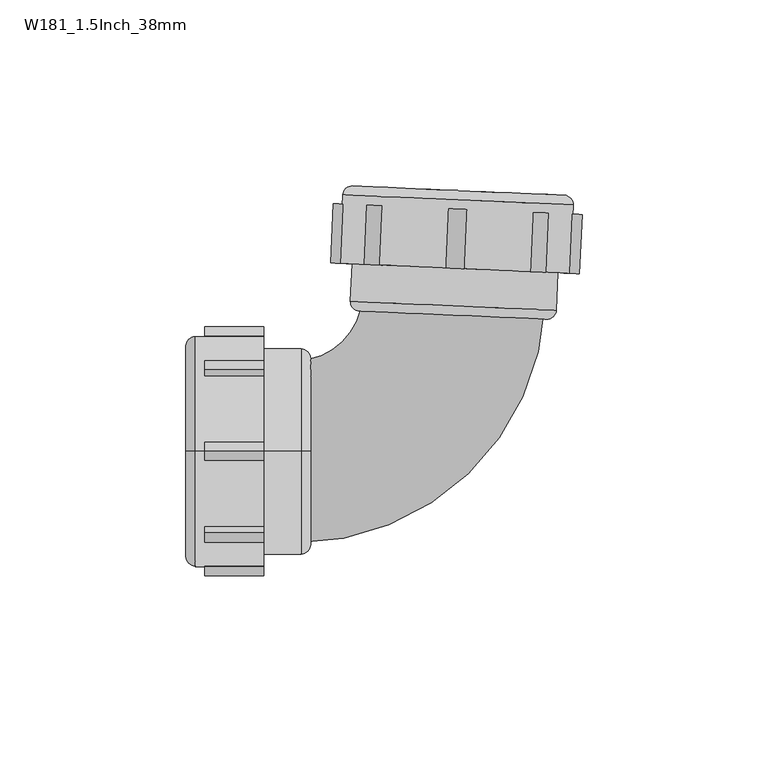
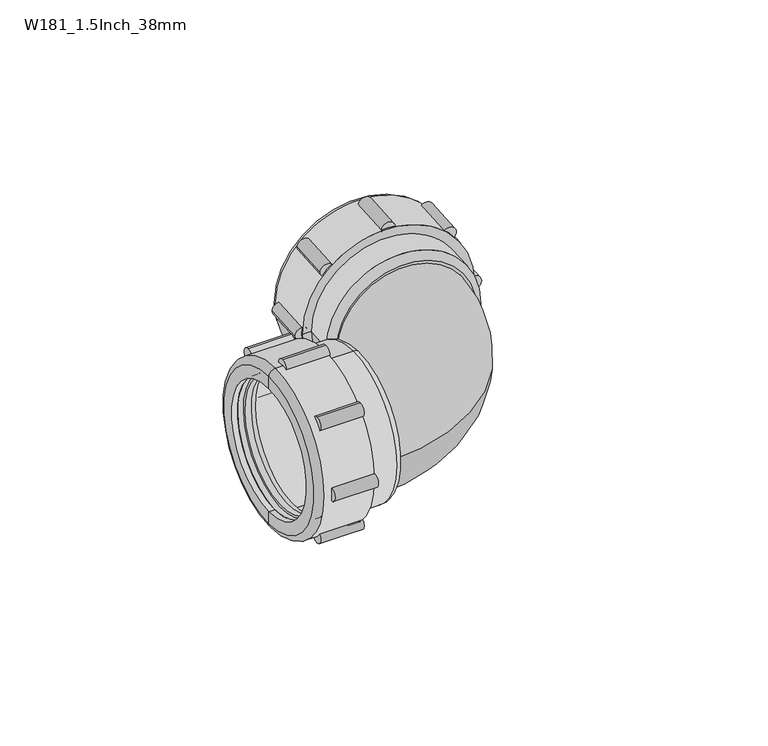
"""IFC4 building model written with IfcOpenShell, lengths in millimetres: pipe fitting geometry, Durapipe_PipeFitting_VulcatheneMechanical_92.5SweepBend_W18 : W181_1.5Inch_38mm."""

from ifc_helpers import new_model, si_unit, point, frame, frame_2d, origin, place, context, project, spatial, polyline, circle_curve, ellipse_curve, trimmed, segment, composite_curve, outline, extrude, source, transform, mapped, element, save
from ifc_brep_helpers import plane_surface, cylinder_surface, revolved_surface, advanced_brep


def w181_1_5inch_38mm_bc8677d7(model_context):
    return source(origin(), model_context, "Body", "SolidModel", [
        advanced_brep(
        [(-15.6220999, 68.5401021, 18.5969083), (21.5363166, 66.9177306, -18.5969083), (20.0528056, 66.9825021, -17.1119841), (-14.1385889, 68.4753306, 17.1119841), (-15.5576233, 63.5325236, 18.3140656), (21.0356461, 61.9348269, -18.3140656), (-15.4111222, 62.0246982, 18.1019336), (20.7582869, 60.4455077, -18.1019336), (20.823716, 61.94408, -18.1019336), (-15.3456932, 63.5232705, 18.1019336), (-14.422115, 61.9815172, 17.1119841), (19.7692796, 60.4886887, -17.1119841), (-14.3348762, 63.9796136, 17.1119841), (19.8565184, 62.4867851, -17.1119841), (-13.7697292, 63.9549388, 16.5462987), (19.2913714, 62.51146, -16.5462987), (-14.2345516, 66.2774245, 17.1119841), (19.956843, 64.784596, -17.1119841), (19.391696, 64.8092709, -16.5462987), (-13.6694046, 66.2527497, 16.5462987)],
        [
            (0, 1, circle_curve(frame((2.9571084, 67.7289164, 0.0), z_axis=(0.043619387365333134, 0.9990482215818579, 0.0), x_axis=(0.7064337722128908, -0.030843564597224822, -0.7071067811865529)), 26.3)),
            (1, 2),
            (2, 3, circle_curve(frame((2.9571084, 67.7289164, 0.0), z_axis=(-0.043619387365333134, -0.9990482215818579, 0.0), x_axis=(0.7064337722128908, -0.030843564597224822, -0.7071067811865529)), 24.2)),
            (3, 0),
            (1, 0, circle_curve(frame((2.9571084, 67.7289164, 0.0), z_axis=(0.043619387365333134, 0.9990482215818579, 0.0), x_axis=(0.7064337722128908, -0.030843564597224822, -0.7071067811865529)), 26.3)),
            (3, 2, circle_curve(frame((2.9571084, 67.7289164, 0.0), z_axis=(-0.043619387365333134, -0.9990482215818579, 0.0), x_axis=(0.7064337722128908, -0.030843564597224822, -0.7071067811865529)), 24.2)),
            (4, 5, circle_curve(frame((2.7390114, 62.7336753, 0.0), z_axis=(0.043619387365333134, 0.9990482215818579, 0.0), x_axis=(0.7064337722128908, -0.030843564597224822, -0.7071067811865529)), 25.9)),
            (5, 1),
            (0, 4),
            (5, 4, circle_curve(frame((2.7390114, 62.7336753, 0.0), z_axis=(0.043619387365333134, 0.9990482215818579, 0.0), x_axis=(0.7064337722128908, -0.030843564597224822, -0.7071067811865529)), 25.9)),
            (6, 7, circle_curve(frame((2.6735823, 61.2351029, 0.0), z_axis=(0.043619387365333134, 0.9990482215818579, 0.0), x_axis=(0.7064337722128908, -0.030843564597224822, -0.7071067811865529)), 25.6)),
            (7, 8),
            (8, 9, circle_curve(frame((2.7390114, 62.7336753, 0.0), z_axis=(-0.043619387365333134, -0.9990482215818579, 0.0), x_axis=(0.7064337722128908, -0.030843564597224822, -0.7071067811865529)), 25.6)),
            (9, 6),
            (7, 6, circle_curve(frame((2.6735823, 61.2351029, 0.0), z_axis=(0.043619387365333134, 0.9990482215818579, 0.0), x_axis=(0.7064337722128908, -0.030843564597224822, -0.7071067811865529)), 25.6)),
            (9, 8, circle_curve(frame((2.7390114, 62.7336753, 0.0), z_axis=(-0.043619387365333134, -0.9990482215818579, 0.0), x_axis=(0.7064337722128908, -0.030843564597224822, -0.7071067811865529)), 25.6)),
            (6, 10),
            (10, 11, circle_curve(frame((2.6735823, 61.2351029, 0.0), z_axis=(0.043619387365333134, 0.9990482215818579, 0.0), x_axis=(0.7064337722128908, -0.030843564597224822, -0.7071067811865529)), 24.2)),
            (11, 7),
            (11, 10, circle_curve(frame((2.6735823, 61.2351029, 0.0), z_axis=(0.043619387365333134, 0.9990482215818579, 0.0), x_axis=(0.7064337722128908, -0.030843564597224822, -0.7071067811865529)), 24.2)),
            (10, 12),
            (12, 13, circle_curve(frame((2.7608211, 63.2331994, 0.0), z_axis=(0.043619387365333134, 0.9990482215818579, 0.0), x_axis=(0.7064337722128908, -0.030843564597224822, -0.7071067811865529)), 24.2)),
            (13, 11),
            (13, 12, circle_curve(frame((2.7608211, 63.2331994, 0.0), z_axis=(0.043619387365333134, 0.9990482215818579, 0.0), x_axis=(0.7064337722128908, -0.030843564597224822, -0.7071067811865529)), 24.2)),
            (12, 14),
            (14, 15, circle_curve(frame((2.7608211, 63.2331994, 0.0), z_axis=(0.043619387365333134, 0.9990482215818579, 0.0), x_axis=(0.7064337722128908, -0.030843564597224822, -0.7071067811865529)), 23.4)),
            (15, 13),
            (15, 14, circle_curve(frame((2.7608211, 63.2331994, 0.0), z_axis=(0.043619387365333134, 0.9990482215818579, 0.0), x_axis=(0.7064337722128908, -0.030843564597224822, -0.7071067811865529)), 23.4)),
            (16, 17, circle_curve(frame((2.8611457, 65.5310103, 0.0), z_axis=(0.043619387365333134, 0.9990482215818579, 0.0), x_axis=(0.7064337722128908, -0.030843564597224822, -0.7071067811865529)), 24.2)),
            (17, 18),
            (18, 19, circle_curve(frame((2.8611457, 65.5310103, 0.0), z_axis=(-0.043619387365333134, -0.9990482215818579, 0.0), x_axis=(0.7064337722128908, -0.030843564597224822, -0.7071067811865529)), 23.4)),
            (19, 16),
            (17, 16, circle_curve(frame((2.8611457, 65.5310103, 0.0), z_axis=(0.043619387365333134, 0.9990482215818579, 0.0), x_axis=(0.7064337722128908, -0.030843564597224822, -0.7071067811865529)), 24.2)),
            (19, 18, circle_curve(frame((2.8611457, 65.5310103, 0.0), z_axis=(-0.043619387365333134, -0.9990482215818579, 0.0), x_axis=(0.7064337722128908, -0.030843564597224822, -0.7071067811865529)), 23.4)),
            (2, 17),
            (16, 3),
            (14, 19),
            (18, 15),
            (4, 9),
            (8, 5),
        ],
        [
            plane_surface(frame((2.9571084, 67.7289164, 0.0), z_axis=(0.043619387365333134, 0.9990482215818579, 0.0), x_axis=(0.7064337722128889, -0.03084356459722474, -0.707106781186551))),
            revolved_surface(polyline([(21.5363166, 66.9177306, -18.5969083), (21.0356461, 61.9348269, -18.3140656)]), (3.1752053, 72.7241575, 0.0), (-0.04361938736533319, -0.9990482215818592, 0.0)),
            cylinder_surface(frame((2.5832616, 59.166418, 0.0), z_axis=(-0.04361938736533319, -0.9990482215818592, 0.0), x_axis=(0.7064337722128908, -0.030843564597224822, -0.7071067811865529)), 25.6),
            plane_surface(frame((2.6735823, 61.2351029, 0.0), z_axis=(-0.043619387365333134, -0.9990482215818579, 0.0), x_axis=(0.7064337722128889, -0.03084356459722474, -0.707106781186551))),
            revolved_surface(polyline([(19.76927961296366, 60.48868863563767, -17.11198410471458), (19.85651839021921, 62.486785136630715, -17.11198410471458)]), (2.5212202, 57.7454365, 0.0), (-0.04361938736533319, -0.9990482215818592, 0.0)),
            plane_surface(frame((2.7608211, 63.2331994, 0.0), z_axis=(-0.043619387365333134, -0.9990482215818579, 0.0), x_axis=(0.7064337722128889, -0.03084356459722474, -0.707106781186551))),
            plane_surface(frame((2.8611457, 65.5310103, 0.0), z_axis=(0.043619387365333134, 0.9990482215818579, 0.0), x_axis=(0.7064337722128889, -0.03084356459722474, -0.707106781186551))),
            revolved_surface(polyline([(19.956842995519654, 64.7845959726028, -17.11198410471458), (20.05280565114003, 66.98250213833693, -17.11198410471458)]), (3.1752053, 72.7241575, 0.0), (-0.04361938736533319, -0.9990482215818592, 0.0)),
            revolved_surface(polyline([(19.29137137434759, 62.511459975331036, -16.546298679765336), (19.39169596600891, 64.8092709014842, -16.546298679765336)]), (3.0254247, 69.2936181, 0.0), (-0.04361938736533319, -0.9990482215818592, 0.0)),
            plane_surface(frame((2.7390114, 62.7336753, 0.0), z_axis=(-0.043619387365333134, -0.9990482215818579, 0.0), x_axis=(0.7064337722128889, -0.03084356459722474, -0.707106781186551))),
        ],
        [
            (0, [[1, 2, 3, 4]]),
            (0, [[-2, 5, -4, 6]]),
            (1, [[7, 8, -1, 9]]),
            (1, [[10, -9, -5, -8]]),
            (2, [[11, 12, 13, 14]]),
            (2, [[-12, 15, -14, 16]]),
            (3, [[-11, 17, 18, 19]]),
            (3, [[-15, -19, 20, -17]]),
            (4, [[21, 22, 23, -18]]),
            (4, [[-21, -20, -23, 24]]),
            (5, [[-22, 25, 26, 27]]),
            (5, [[-24, -27, 28, -25]]),
            (6, [[29, 30, 31, 32]]),
            (6, [[33, -32, 34, -30]]),
            (7, [[-3, 35, -29, 36]]),
            (7, [[-6, -36, -33, -35]]),
            (8, [[37, -31, 38, -26]]),
            (8, [[-37, -28, -38, -34]]),
            (9, [[-7, 39, -13, 40]]),
            (9, [[-10, -40, -16, -39]]),
        ],
    ),
        advanced_brep(
        [(-28.8203452, 50.5987253, 0.0), (33.1206446, 47.8943233, 0.0), (33.9232413, 66.2768105, 0.0), (-28.0177485, 68.9812125, 0.0), (-25.5234861, 50.4547813, 0.0), (29.8237854, 48.0382672, 0.0), (-25.4110794, 71.3697846, 0.0), (31.5346692, 68.8834796, 0.0), (27.0389522, 69.0797668, 0.0), (-20.9153624, 71.1734974, 0.0), (-23.0181454, 68.8630204, 0.0), (28.9323621, 66.5948123, 0.0), (27.7415528, 39.3207958, 0.0), (-24.2089547, 41.589004, 0.0), (-21.020049, 68.7757817, 0.0), (26.9342657, 66.6820511, 0.0), (-25.9640419, 40.3643943, 0.0), (29.3832296, 37.9478802, 0.0), (-23.5754698, 37.7577252, 0.0), (26.7765606, 35.5593081, 0.0), (1.6005454, 36.6585167, 0.0), (1.7662991, 40.4548999, 0.0)],
        [
            (0, 1, circle_curve(frame((2.1501497, 49.2465243, 0.0), z_axis=(0.0436193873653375, 0.9990482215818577, 0.0), x_axis=(0.9990482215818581, -0.04361938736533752, 0.0)), 31.0)),
            (1, 2),
            (2, 3, circle_curve(frame((2.9527464, 67.6290115, 0.0), z_axis=(-0.0436193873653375, -0.9990482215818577, 0.0), x_axis=(0.9990482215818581, -0.04361938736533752, 0.0)), 31.0)),
            (3, 0),
            (1, 0, circle_curve(frame((2.1501497, 49.2465243, 0.0), z_axis=(0.0436193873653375, 0.9990482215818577, 0.0), x_axis=(0.9990482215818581, -0.04361938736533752, 0.0)), 31.0)),
            (3, 2, circle_curve(frame((2.9527464, 67.6290115, 0.0), z_axis=(-0.0436193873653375, -0.9990482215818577, 0.0), x_axis=(0.9990482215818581, -0.04361938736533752, 0.0)), 31.0)),
            (4, 5, circle_curve(frame((2.1501497, 49.2465243, 0.0), z_axis=(0.0436193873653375, 0.9990482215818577, 0.0), x_axis=(0.9990482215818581, -0.04361938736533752, 0.0)), 27.7)),
            (5, 1),
            (0, 4),
            (5, 4, circle_curve(frame((2.1501497, 49.2465243, 0.0), z_axis=(0.0436193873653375, 0.9990482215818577, 0.0), x_axis=(0.9990482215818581, -0.04361938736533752, 0.0)), 27.7)),
            (6, 7, circle_curve(frame((3.0617949, 70.1266321, 0.0), z_axis=(0.0436193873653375, 0.9990482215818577, 0.0), x_axis=(0.9990482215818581, -0.04361938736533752, 0.0)), 28.5)),
            (7, 8),
            (8, 9, circle_curve(frame((3.0617949, 70.1266321, 0.0), z_axis=(-0.0436193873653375, -0.9990482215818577, 0.0), x_axis=(0.9990482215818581, -0.04361938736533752, 0.0)), 24.0)),
            (9, 6),
            (7, 6, circle_curve(frame((3.0617949, 70.1266321, 0.0), z_axis=(0.0436193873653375, 0.9990482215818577, 0.0), x_axis=(0.9990482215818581, -0.04361938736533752, 0.0)), 28.5)),
            (9, 8, circle_curve(frame((3.0617949, 70.1266321, 0.0), z_axis=(-0.0436193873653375, -0.9990482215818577, 0.0), x_axis=(0.9990482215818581, -0.04361938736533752, 0.0)), 24.0)),
            (2, 7, circle_curve(frame((31.4256207, 66.385859, 0.0), z_axis=(0.0, 0.0, 1.0000000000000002), x_axis=(0.043619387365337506, 0.9990482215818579, 0.0)), 2.5)),
            (6, 3, circle_curve(frame((-25.5201279, 68.8721641, 0.0), z_axis=(0.0, 0.0, 1.0000000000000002), x_axis=(0.043619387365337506, 0.9990482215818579, 0.0)), 2.5)),
            (10, 11, circle_curve(frame((2.9571084, 67.7289164, 0.0), z_axis=(0.0436193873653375, 0.9990482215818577, 0.0), x_axis=(0.9990482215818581, -0.04361938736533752, 0.0)), 26.0)),
            (11, 12),
            (12, 13, circle_curve(frame((1.7662991, 40.4548999, 0.0), z_axis=(-0.0436193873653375, -0.9990482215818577, 0.0), x_axis=(0.9990482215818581, -0.04361938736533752, 0.0)), 26.0)),
            (13, 10),
            (11, 10, circle_curve(frame((2.9571084, 67.7289164, 0.0), z_axis=(0.0436193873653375, 0.9990482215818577, 0.0), x_axis=(0.9990482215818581, -0.04361938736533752, 0.0)), 26.0)),
            (13, 12, circle_curve(frame((1.7662991, 40.4548999, 0.0), z_axis=(-0.0436193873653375, -0.9990482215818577, 0.0), x_axis=(0.9990482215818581, -0.04361938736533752, 0.0)), 26.0)),
            (14, 15, circle_curve(frame((2.9571084, 67.7289164, 0.0), z_axis=(0.0436193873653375, 0.9990482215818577, 0.0), x_axis=(0.9990482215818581, -0.04361938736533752, 0.0)), 24.0)),
            (15, 11),
            (10, 14),
            (15, 14, circle_curve(frame((2.9571084, 67.7289164, 0.0), z_axis=(0.0436193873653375, 0.9990482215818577, 0.0), x_axis=(0.9990482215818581, -0.04361938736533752, 0.0)), 24.0)),
            (8, 15),
            (14, 9),
            (16, 17, circle_curve(frame((1.7095939, 39.1561372, 0.0), z_axis=(0.0436193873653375, 0.9990482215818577, 0.0), x_axis=(0.9990482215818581, -0.04361938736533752, 0.0)), 27.7)),
            (17, 5),
            (4, 16),
            (17, 16, circle_curve(frame((1.7095939, 39.1561372, 0.0), z_axis=(0.0436193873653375, 0.9990482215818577, 0.0), x_axis=(0.9990482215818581, -0.04361938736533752, 0.0)), 27.7)),
            (18, 19, circle_curve(frame((1.6005454, 36.6585167, 0.0), z_axis=(0.0436193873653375, 0.9990482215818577, 0.0), x_axis=(0.9990482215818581, -0.04361938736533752, 0.0)), 25.2)),
            (19, 17, circle_curve(frame((26.8856091, 38.0569287, 0.0), z_axis=(0.0, 0.0, 1.0000000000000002), x_axis=(0.043619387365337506, 0.9990482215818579, 0.0)), 2.5)),
            (16, 18, circle_curve(frame((-23.4664213, 40.2553458, 0.0), z_axis=(0.0, 0.0, 1.0000000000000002), x_axis=(0.043619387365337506, 0.9990482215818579, 0.0)), 2.5)),
            (19, 18, circle_curve(frame((1.6005454, 36.6585167, 0.0), z_axis=(0.0436193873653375, 0.9990482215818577, 0.0), x_axis=(0.9990482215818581, -0.04361938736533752, 0.0)), 25.2)),
            (20, 19),
            (18, 20),
            (12, 21),
            (21, 13),
        ],
        [
            cylinder_surface(frame((71.143014, 1629.442913, 0.0), z_axis=(-0.043619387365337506, -0.9990482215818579, 0.0), x_axis=(0.9990482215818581, -0.04361938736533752, 0.0)), 31.0),
            plane_surface(frame((2.1501497, 49.2465243, 0.0), z_axis=(-0.0436193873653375, -0.9990482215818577, 0.0), x_axis=(0.9990482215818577, -0.0436193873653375, 0.0))),
            plane_surface(frame((3.0617949, 70.1266321, 0.0), z_axis=(0.0436193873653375, 0.9990482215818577, 0.0), x_axis=(0.9990482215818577, -0.0436193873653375, 0.0))),
            revolved_surface(trimmed(ellipse_curve(frame((31.4256207, 66.385859, 0.0), z_axis=(0.0, 0.0, -1.0000000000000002), x_axis=(0.043619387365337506, 0.9990482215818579, 0.0)), 2.5, 2.5), [point((31.5346692, 68.8834796, 0.0))], [point((33.9232413, 66.2768105, 0.0))], True, "CARTESIAN"), (71.143014, 1629.442913, 0.0), (-0.043619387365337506, -0.9990482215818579, 0.0)),
            revolved_surface(polyline([(27.741552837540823, 39.32079579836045, 0.0), (28.932362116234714, 66.59481233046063, 0.0)]), (71.143014, 1629.442913, 0.0), (-0.043619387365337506, -0.9990482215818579, 0.0)),
            plane_surface(frame((2.9571084, 67.7289164, 0.0), z_axis=(-0.0436193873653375, -0.9990482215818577, 0.0), x_axis=(0.9990482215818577, -0.0436193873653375, 0.0))),
            revolved_surface(polyline([(26.934265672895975, 66.68205110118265, 0.0), (27.03895220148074, 69.07976680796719, 0.0)]), (71.143014, 1629.442913, 0.0), (-0.043619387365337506, -0.9990482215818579, 0.0)),
            cylinder_surface(frame((71.143014, 1629.442913, 0.0), z_axis=(-0.043619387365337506, -0.9990482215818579, 0.0), x_axis=(0.9990482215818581, -0.04361938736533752, 0.0)), 27.7),
            revolved_surface(trimmed(ellipse_curve(frame((26.8856091, 38.0569287, 0.0), z_axis=(0.0, 0.0, -1.0000000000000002), x_axis=(0.043619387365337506, 0.9990482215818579, 0.0)), 2.5, 2.5), [point((29.3832296, 37.9478802, 0.0))], [point((26.7765606, 35.5593081, 0.0))], True, "CARTESIAN"), (71.143014, 1629.442913, 0.0), (-0.043619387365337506, -0.9990482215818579, 0.0)),
            plane_surface(frame((1.6005454, 36.6585167, 0.0), z_axis=(-0.0436193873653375, -0.9990482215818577, 0.0), x_axis=(0.9990482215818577, -0.0436193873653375, 0.0))),
            plane_surface(frame((1.7662991, 40.4548999, 0.0), z_axis=(0.0436193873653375, 0.9990482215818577, 0.0), x_axis=(0.9990482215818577, -0.0436193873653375, 0.0))),
        ],
        [
            (0, [[1, 2, 3, 4]]),
            (0, [[5, -4, 6, -2]]),
            (1, [[7, 8, -1, 9]]),
            (1, [[10, -9, -5, -8]]),
            (2, [[11, 12, 13, 14]]),
            (2, [[15, -14, 16, -12]]),
            (3, [[-3, 17, -11, 18]]),
            (3, [[-6, -18, -15, -17]]),
            (4, [[19, 20, 21, 22]]),
            (4, [[23, -22, 24, -20]]),
            (5, [[25, 26, -19, 27]]),
            (5, [[28, -27, -23, -26]]),
            (6, [[-13, 29, -25, 30]]),
            (6, [[-16, -30, -28, -29]]),
            (7, [[31, 32, -7, 33]]),
            (7, [[34, -33, -10, -32]]),
            (8, [[35, 36, -31, 37]]),
            (8, [[38, -37, -34, -36]]),
            (9, [[39, -35, 40]]),
            (9, [[-40, -38, -39]]),
            (10, [[-21, 41, 42]]),
            (10, [[-24, -42, -41]]),
        ],
    ),
        extrude(outline(composite_curve([segment(trimmed(circle_curve(frame_2d((0.0, -2.4999999)), 2.5), [point((0.0, -5.0))], [point((0.0, 0.0))], False, "CARTESIAN"), True, "CONTINUOUS"), segment(trimmed(circle_curve(frame_2d((0.0, -2.4999999)), 2.5), [point((0.0, 0.0))], [point((0.0, -5.0))], False, "CARTESIAN"), True, "CONTINUOUS")], self_intersect=False)), frame((4.6477702, 49.1374758, -31.0), z_axis=(0.0436193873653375, 0.9990482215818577, 0.0), x_axis=(0.0, 0.0, 1.0)), (0.0, 0.0, 1.0), 15.9),
        extrude(outline(composite_curve([segment(trimmed(circle_curve(frame_2d((9.0796898, 19.4203102)), 2.5), [point((9.0796898, 16.9203103))], [point((9.0796898, 21.9203103))], False, "CARTESIAN"), True, "CONTINUOUS"), segment(trimmed(circle_curve(frame_2d((9.0796898, 19.4203102)), 2.5), [point((9.0796898, 21.9203103))], [point((9.0796898, 16.9203103))], False, "CARTESIAN"), True, "CONTINUOUS")], self_intersect=False)), frame((4.6477702, 49.1374758, -31.0), z_axis=(0.0436193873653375, 0.9990482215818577, 0.0), x_axis=(0.0, 0.0, 1.0)), (0.0, 0.0, 1.0), 15.9),
        extrude(outline(composite_curve([segment(trimmed(circle_curve(frame_2d((31.0, 28.5000001)), 2.5), [point((31.0, 26.0))], [point((31.0, 31.0))], False, "CARTESIAN"), True, "CONTINUOUS"), segment(trimmed(circle_curve(frame_2d((31.0, 28.5000001)), 2.5), [point((31.0, 31.0))], [point((31.0, 26.0))], False, "CARTESIAN"), True, "CONTINUOUS")], self_intersect=False)), frame((4.6477702, 49.1374758, -31.0), z_axis=(0.0436193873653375, 0.9990482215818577, 0.0), x_axis=(0.0, 0.0, 1.0)), (0.0, 0.0, 1.0), 15.9),
        extrude(outline(composite_curve([segment(trimmed(circle_curve(frame_2d((52.9203102, 19.4203102)), 2.5), [point((52.9203102, 16.9203103))], [point((52.9203102, 21.9203103))], False, "CARTESIAN"), True, "CONTINUOUS"), segment(trimmed(circle_curve(frame_2d((52.9203102, 19.4203102)), 2.5), [point((52.9203102, 21.9203103))], [point((52.9203102, 16.9203103))], False, "CARTESIAN"), True, "CONTINUOUS")], self_intersect=False)), frame((4.6477702, 49.1374758, -31.0), z_axis=(0.0436193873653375, 0.9990482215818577, 0.0), x_axis=(0.0, 0.0, 1.0)), (0.0, 0.0, 1.0), 15.9),
        extrude(outline(composite_curve([segment(trimmed(circle_curve(frame_2d((62.0, -2.4999999)), 2.5), [point((62.0, -5.0))], [point((62.0, 0.0))], False, "CARTESIAN"), True, "CONTINUOUS"), segment(trimmed(circle_curve(frame_2d((62.0, -2.4999999)), 2.5), [point((62.0, 0.0))], [point((62.0, -5.0))], False, "CARTESIAN"), True, "CONTINUOUS")], self_intersect=False)), frame((4.6477702, 49.1374758, -31.0), z_axis=(0.0436193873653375, 0.9990482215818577, 0.0), x_axis=(0.0, 0.0, 1.0)), (0.0, 0.0, 1.0), 15.9),
        extrude(outline(composite_curve([segment(trimmed(circle_curve(frame_2d((52.9203102, -24.4203102)), 2.5), [point((52.9203102, -26.9203102))], [point((52.9203102, -21.9203102))], False, "CARTESIAN"), True, "CONTINUOUS"), segment(trimmed(circle_curve(frame_2d((52.9203102, -24.4203102)), 2.5), [point((52.9203102, -21.9203102))], [point((52.9203102, -26.9203102))], False, "CARTESIAN"), True, "CONTINUOUS")], self_intersect=False)), frame((4.6477702, 49.1374758, -31.0), z_axis=(0.0436193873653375, 0.9990482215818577, 0.0), x_axis=(0.0, 0.0, 1.0)), (0.0, 0.0, 1.0), 15.9),
        extrude(outline(composite_curve([segment(trimmed(circle_curve(frame_2d((31.0, -33.5)), 2.5), [point((31.0, -35.9999999))], [point((31.0, -30.9999999))], False, "CARTESIAN"), True, "CONTINUOUS"), segment(trimmed(circle_curve(frame_2d((31.0, -33.5)), 2.5), [point((31.0, -30.9999999))], [point((31.0, -35.9999999))], False, "CARTESIAN"), True, "CONTINUOUS")], self_intersect=False)), frame((4.6477702, 49.1374758, -31.0), z_axis=(0.0436193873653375, 0.9990482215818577, 0.0), x_axis=(0.0, 0.0, 1.0)), (0.0, 0.0, 1.0), 15.9),
        extrude(outline(composite_curve([segment(trimmed(circle_curve(frame_2d((9.0796898, -24.4203102)), 2.5), [point((9.0796898, -26.9203102))], [point((9.0796898, -21.9203102))], False, "CARTESIAN"), True, "CONTINUOUS"), segment(trimmed(circle_curve(frame_2d((9.0796898, -24.4203102)), 2.5), [point((9.0796898, -21.9203102))], [point((9.0796898, -26.9203102))], False, "CARTESIAN"), True, "CONTINUOUS")], self_intersect=False)), frame((4.6477702, 49.1374758, -31.0), z_axis=(0.0436193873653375, 0.9990482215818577, 0.0), x_axis=(0.0, 0.0, 1.0)), (0.0, 0.0, 1.0), 15.9),
        advanced_brep(
        [(-67.7934407, -18.5969083, -18.5969083), (-67.7934407, 18.5969083, 18.5969083), (-67.7934407, 17.1119841, 17.1119841), (-67.7934407, -17.1119841, -17.1119841), (-62.7934407, -18.3140656, -18.3140656), (-62.7934407, 18.3140656, 18.3140656), (-61.2934407, -18.1019336, -18.1019336), (-61.2934407, 18.1019336, 18.1019336), (-62.7934407, 18.1019336, 18.1019336), (-62.7934407, -18.1019336, -18.1019336), (-61.2934407, -17.1119841, -17.1119841), (-61.2934407, 17.1119841, 17.1119841), (-63.2934407, -17.1119841, -17.1119841), (-63.2934407, 17.1119841, 17.1119841), (-63.2934407, -16.5462987, -16.5462987), (-63.2934407, 16.5462987, 16.5462987), (-65.5934407, -17.1119841, -17.1119841), (-65.5934407, 17.1119841, 17.1119841), (-65.5934407, 16.5462987, 16.5462987), (-65.5934407, -16.5462987, -16.5462987)],
        [
            (0, 1, circle_curve(frame((-67.7934407, 0.0, 0.0), z_axis=(-1.0, 0.0, 0.0), x_axis=(0.0, 0.7071067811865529, 0.7071067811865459)), 26.3)),
            (1, 2),
            (2, 3, circle_curve(frame((-67.7934407, 0.0, 0.0), z_axis=(1.0, 0.0, 0.0), x_axis=(0.0, 0.7071067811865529, 0.7071067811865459)), 24.2)),
            (3, 0),
            (1, 0, circle_curve(frame((-67.7934407, 0.0, 0.0), z_axis=(-1.0, 0.0, 0.0), x_axis=(0.0, 0.7071067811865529, 0.7071067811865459)), 26.3)),
            (3, 2, circle_curve(frame((-67.7934407, 0.0, 0.0), z_axis=(1.0, 0.0, 0.0), x_axis=(0.0, 0.7071067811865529, 0.7071067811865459)), 24.2)),
            (4, 5, circle_curve(frame((-62.7934407, 0.0, 0.0), z_axis=(-1.0, 0.0, 0.0), x_axis=(0.0, 0.7071067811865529, 0.7071067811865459)), 25.9)),
            (5, 1),
            (0, 4),
            (5, 4, circle_curve(frame((-62.7934407, 0.0, 0.0), z_axis=(-1.0, 0.0, 0.0), x_axis=(0.0, 0.7071067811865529, 0.7071067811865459)), 25.9)),
            (6, 7, circle_curve(frame((-61.2934407, 0.0, 0.0), z_axis=(-1.0, 0.0, 0.0), x_axis=(0.0, 0.7071067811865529, 0.7071067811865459)), 25.6)),
            (7, 8),
            (8, 9, circle_curve(frame((-62.7934407, 0.0, 0.0), z_axis=(1.0, 0.0, 0.0), x_axis=(0.0, 0.7071067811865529, 0.7071067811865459)), 25.6)),
            (9, 6),
            (7, 6, circle_curve(frame((-61.2934407, 0.0, 0.0), z_axis=(-1.0, 0.0, 0.0), x_axis=(0.0, 0.7071067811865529, 0.7071067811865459)), 25.6)),
            (9, 8, circle_curve(frame((-62.7934407, 0.0, 0.0), z_axis=(1.0, 0.0, 0.0), x_axis=(0.0, 0.7071067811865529, 0.7071067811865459)), 25.6)),
            (6, 10),
            (10, 11, circle_curve(frame((-61.2934407, 0.0, 0.0), z_axis=(-1.0, 0.0, 0.0), x_axis=(0.0, 0.7071067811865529, 0.7071067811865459)), 24.2)),
            (11, 7),
            (11, 10, circle_curve(frame((-61.2934407, 0.0, 0.0), z_axis=(-1.0, 0.0, 0.0), x_axis=(0.0, 0.7071067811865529, 0.7071067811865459)), 24.2)),
            (10, 12),
            (12, 13, circle_curve(frame((-63.2934407, 0.0, 0.0), z_axis=(-1.0, 0.0, 0.0), x_axis=(0.0, 0.7071067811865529, 0.7071067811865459)), 24.2)),
            (13, 11),
            (13, 12, circle_curve(frame((-63.2934407, 0.0, 0.0), z_axis=(-1.0, 0.0, 0.0), x_axis=(0.0, 0.7071067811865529, 0.7071067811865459)), 24.2)),
            (12, 14),
            (14, 15, circle_curve(frame((-63.2934407, 0.0, 0.0), z_axis=(-1.0, 0.0, 0.0), x_axis=(0.0, 0.7071067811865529, 0.7071067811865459)), 23.4)),
            (15, 13),
            (15, 14, circle_curve(frame((-63.2934407, 0.0, 0.0), z_axis=(-1.0, 0.0, 0.0), x_axis=(0.0, 0.7071067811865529, 0.7071067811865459)), 23.4)),
            (16, 17, circle_curve(frame((-65.5934407, 0.0, 0.0), z_axis=(-1.0, 0.0, 0.0), x_axis=(0.0, 0.7071067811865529, 0.7071067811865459)), 24.2)),
            (17, 18),
            (18, 19, circle_curve(frame((-65.5934407, 0.0, 0.0), z_axis=(1.0, 0.0, 0.0), x_axis=(0.0, 0.7071067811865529, 0.7071067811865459)), 23.4)),
            (19, 16),
            (17, 16, circle_curve(frame((-65.5934407, 0.0, 0.0), z_axis=(-1.0, 0.0, 0.0), x_axis=(0.0, 0.7071067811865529, 0.7071067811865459)), 24.2)),
            (19, 18, circle_curve(frame((-65.5934407, 0.0, 0.0), z_axis=(1.0, 0.0, 0.0), x_axis=(0.0, 0.7071067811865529, 0.7071067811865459)), 23.4)),
            (2, 17),
            (16, 3),
            (14, 19),
            (18, 15),
            (4, 9),
            (8, 5),
        ],
        [
            plane_surface(frame((-67.7934407, 0.0, 0.0), z_axis=(-1.0, 0.0, 0.0), x_axis=(0.0, 0.707106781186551, 0.707106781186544))),
            revolved_surface(polyline([(-67.7934407, 18.5969083, 18.5969083), (-62.7934407, 18.3140656, 18.3140656)]), (-72.7934407, 0.0, 0.0), (1.0000000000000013, 0.0, 0.0)),
            cylinder_surface(frame((-59.222785, 0.0, 0.0), z_axis=(1.0000000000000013, 0.0, 0.0), x_axis=(0.0, 0.7071067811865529, 0.7071067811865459)), 25.6),
            plane_surface(frame((-61.2934407, 0.0, 0.0), z_axis=(1.0, 0.0, 0.0), x_axis=(0.0, 0.707106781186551, 0.707106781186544))),
            revolved_surface(polyline([(-61.293440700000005, 17.11198410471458, 17.11198410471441), (-63.29344070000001, 17.11198410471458, 17.11198410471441)]), (-57.8004497, 0.0, 0.0), (1.0000000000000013, 0.0, 0.0)),
            plane_surface(frame((-63.2934407, 0.0, 0.0), z_axis=(1.0, 0.0, 0.0), x_axis=(0.0, 0.707106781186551, 0.707106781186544))),
            plane_surface(frame((-65.5934407, 0.0, 0.0), z_axis=(-1.0, 0.0, 0.0), x_axis=(0.0, 0.707106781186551, 0.707106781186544))),
            revolved_surface(polyline([(-65.59344069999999, 17.11198410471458, 17.11198410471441), (-67.79344069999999, 17.11198410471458, 17.11198410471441)]), (-72.7934407, 0.0, 0.0), (1.0000000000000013, 0.0, 0.0)),
            revolved_surface(polyline([(-63.293440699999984, 16.546298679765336, 16.546298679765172), (-65.59344069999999, 16.546298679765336, 16.546298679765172)]), (-69.3596331, 0.0, 0.0), (1.0000000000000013, 0.0, 0.0)),
            plane_surface(frame((-62.7934407, 0.0, 0.0), z_axis=(1.0, 0.0, 0.0), x_axis=(0.0, 0.707106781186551, 0.707106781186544))),
        ],
        [
            (0, [[1, 2, 3, 4]]),
            (0, [[-2, 5, -4, 6]]),
            (1, [[7, 8, -1, 9]]),
            (1, [[10, -9, -5, -8]]),
            (2, [[11, 12, 13, 14]]),
            (2, [[-12, 15, -14, 16]]),
            (3, [[-11, 17, 18, 19]]),
            (3, [[-15, -19, 20, -17]]),
            (4, [[21, 22, 23, -18]]),
            (4, [[-21, -20, -23, 24]]),
            (5, [[-22, 25, 26, 27]]),
            (5, [[-24, -27, 28, -25]]),
            (6, [[29, 30, 31, 32]]),
            (6, [[33, -32, 34, -30]]),
            (7, [[-3, 35, -29, 36]]),
            (7, [[-6, -36, -33, -35]]),
            (8, [[37, -31, 38, -26]]),
            (8, [[-37, -28, -38, -34]]),
            (9, [[-7, 39, -13, 40]]),
            (9, [[-10, -40, -16, -39]]),
        ],
    ),
        advanced_brep(
        [(-49.2934407, 0.0, -31.0), (-49.2934407, 0.0, 31.0), (-67.6934407, 0.0, 31.0), (-67.6934407, 0.0, -31.0), (-49.2934407, 0.0, -27.7), (-49.2934407, 0.0, 27.7), (-70.1934407, 0.0, -28.5), (-70.1934407, 0.0, 28.5), (-70.1934407, 0.0, 24.0), (-70.1934407, 0.0, -24.0), (-67.7934407, 0.0, -26.0), (-67.7934407, 0.0, 26.0), (-40.4934407, 0.0, 26.0), (-40.4934407, 0.0, -26.0), (-67.7934407, 0.0, -24.0), (-67.7934407, 0.0, 24.0), (-39.1934407, 0.0, -27.7), (-39.1934407, 0.0, 27.7), (-36.6934407, 0.0, -25.2), (-36.6934407, 0.0, 25.2), (-36.6934407, 0.0, 0.0), (-40.4934407, 0.0, 0.0)],
        [
            (0, 1, circle_curve(frame((-49.2934407, 0.0, 0.0), z_axis=(-1.0, 0.0, 0.0), x_axis=(0.0, 0.0, 1.0000000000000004)), 31.0)),
            (1, 2),
            (2, 3, circle_curve(frame((-67.6934407, 0.0, 0.0), z_axis=(1.0, 0.0, 0.0), x_axis=(0.0, 0.0, 1.0000000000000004)), 31.0)),
            (3, 0),
            (1, 0, circle_curve(frame((-49.2934407, 0.0, 0.0), z_axis=(-1.0, 0.0, 0.0), x_axis=(0.0, 0.0, 1.0000000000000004)), 31.0)),
            (3, 2, circle_curve(frame((-67.6934407, 0.0, 0.0), z_axis=(1.0, 0.0, 0.0), x_axis=(0.0, 0.0, 1.0000000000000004)), 31.0)),
            (4, 5, circle_curve(frame((-49.2934407, 0.0, 0.0), z_axis=(-1.0, 0.0, 0.0), x_axis=(0.0, 0.0, 1.0000000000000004)), 27.7)),
            (5, 1),
            (0, 4),
            (5, 4, circle_curve(frame((-49.2934407, 0.0, 0.0), z_axis=(-1.0, 0.0, 0.0), x_axis=(0.0, 0.0, 1.0000000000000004)), 27.7)),
            (6, 7, circle_curve(frame((-70.1934407, 0.0, 0.0), z_axis=(-1.0, 0.0, 0.0), x_axis=(0.0, 0.0, 1.0000000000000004)), 28.5)),
            (7, 8),
            (8, 9, circle_curve(frame((-70.1934407, 0.0, 0.0), z_axis=(1.0, 0.0, 0.0), x_axis=(0.0, 0.0, 1.0000000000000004)), 24.0)),
            (9, 6),
            (7, 6, circle_curve(frame((-70.1934407, 0.0, 0.0), z_axis=(-1.0, 0.0, 0.0), x_axis=(0.0, 0.0, 1.0000000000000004)), 28.5)),
            (9, 8, circle_curve(frame((-70.1934407, 0.0, 0.0), z_axis=(1.0, 0.0, 0.0), x_axis=(0.0, 0.0, 1.0000000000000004)), 24.0)),
            (2, 7, circle_curve(frame((-67.6934407, 0.0, 28.5), z_axis=(0.0, -1.0000000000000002, 0.0), x_axis=(-1.0000000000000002, 0.0, 0.0)), 2.5)),
            (6, 3, circle_curve(frame((-67.6934407, 0.0, -28.5), z_axis=(0.0, -1.0000000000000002, 0.0), x_axis=(-1.0000000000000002, 0.0, 0.0)), 2.5)),
            (10, 11, circle_curve(frame((-67.7934407, 0.0, 0.0), z_axis=(-1.0, 0.0, 0.0), x_axis=(0.0, 0.0, 1.0000000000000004)), 26.0)),
            (11, 12),
            (12, 13, circle_curve(frame((-40.4934407, 0.0, 0.0), z_axis=(1.0, 0.0, 0.0), x_axis=(0.0, 0.0, 1.0000000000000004)), 26.0)),
            (13, 10),
            (11, 10, circle_curve(frame((-67.7934407, 0.0, 0.0), z_axis=(-1.0, 0.0, 0.0), x_axis=(0.0, 0.0, 1.0000000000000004)), 26.0)),
            (13, 12, circle_curve(frame((-40.4934407, 0.0, 0.0), z_axis=(1.0, 0.0, 0.0), x_axis=(0.0, 0.0, 1.0000000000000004)), 26.0)),
            (14, 15, circle_curve(frame((-67.7934407, 0.0, 0.0), z_axis=(-1.0, 0.0, 0.0), x_axis=(0.0, 0.0, 1.0000000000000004)), 24.0)),
            (15, 11),
            (10, 14),
            (15, 14, circle_curve(frame((-67.7934407, 0.0, 0.0), z_axis=(-1.0, 0.0, 0.0), x_axis=(0.0, 0.0, 1.0000000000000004)), 24.0)),
            (8, 15),
            (14, 9),
            (16, 17, circle_curve(frame((-39.1934407, 0.0, 0.0), z_axis=(-1.0, 0.0, 0.0), x_axis=(0.0, 0.0, 1.0000000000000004)), 27.7)),
            (17, 5),
            (4, 16),
            (17, 16, circle_curve(frame((-39.1934407, 0.0, 0.0), z_axis=(-1.0, 0.0, 0.0), x_axis=(0.0, 0.0, 1.0000000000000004)), 27.7)),
            (18, 19, circle_curve(frame((-36.6934407, 0.0, 0.0), z_axis=(-1.0, 0.0, 0.0), x_axis=(0.0, 0.0, 1.0000000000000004)), 25.2)),
            (19, 17, circle_curve(frame((-39.1934407, 0.0, 25.2), z_axis=(0.0, -1.0000000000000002, 0.0), x_axis=(-1.0000000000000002, 0.0, 0.0)), 2.5)),
            (16, 18, circle_curve(frame((-39.1934407, 0.0, -25.2), z_axis=(0.0, -1.0000000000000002, 0.0), x_axis=(-1.0000000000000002, 0.0, 0.0)), 2.5)),
            (19, 18, circle_curve(frame((-36.6934407, 0.0, 0.0), z_axis=(-1.0, 0.0, 0.0), x_axis=(0.0, 0.0, 1.0000000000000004)), 25.2)),
            (20, 19),
            (18, 20),
            (12, 21),
            (21, 13),
        ],
        [
            cylinder_surface(frame((-1630.9952591, 0.0, 0.0), z_axis=(1.0000000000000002, 0.0, 0.0), x_axis=(0.0, 0.0, 1.0000000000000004)), 31.0),
            plane_surface(frame((-49.2934407, 0.0, 0.0), z_axis=(1.0, 0.0, 0.0), x_axis=(0.0, 0.0, 1.0))),
            plane_surface(frame((-70.1934407, 0.0, 0.0), z_axis=(-1.0, 0.0, 0.0), x_axis=(0.0, 0.0, 1.0))),
            revolved_surface(trimmed(ellipse_curve(frame((-67.6934407, 0.0, 28.5), z_axis=(0.0, 1.0000000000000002, 0.0), x_axis=(-1.0000000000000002, 0.0, 0.0)), 2.5, 2.5), [point((-70.1934407, 0.0, 28.5))], [point((-67.6934407, 0.0, 31.0))], True, "CARTESIAN"), (-1630.9952591, 0.0, 0.0), (1.0000000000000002, 0.0, 0.0)),
            revolved_surface(polyline([(-40.493440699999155, 0.0, 26.00000000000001), (-67.79344069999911, 0.0, 26.00000000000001)]), (-1630.9952591, 0.0, 0.0), (1.0000000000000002, 0.0, 0.0)),
            plane_surface(frame((-67.7934407, 0.0, 0.0), z_axis=(1.0, 0.0, 0.0), x_axis=(0.0, 0.0, 1.0))),
            revolved_surface(polyline([(-67.79344069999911, 0.0, 24.00000000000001), (-70.19344069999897, 0.0, 24.00000000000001)]), (-1630.9952591, 0.0, 0.0), (1.0000000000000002, 0.0, 0.0)),
            cylinder_surface(frame((-1630.9952591, 0.0, 0.0), z_axis=(1.0000000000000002, 0.0, 0.0), x_axis=(0.0, 0.0, 1.0000000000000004)), 27.7),
            revolved_surface(trimmed(ellipse_curve(frame((-39.1934407, 0.0, 25.2), z_axis=(0.0, 1.0000000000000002, 0.0), x_axis=(-1.0000000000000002, 0.0, 0.0)), 2.5, 2.5), [point((-39.1934407, 0.0, 27.7))], [point((-36.6934407, 0.0, 25.2))], True, "CARTESIAN"), (-1630.9952591, 0.0, 0.0), (1.0000000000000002, 0.0, 0.0)),
            plane_surface(frame((-36.6934407, 0.0, 0.0), z_axis=(1.0, 0.0, 0.0), x_axis=(0.0, 0.0, 1.0))),
            plane_surface(frame((-40.4934407, 0.0, 0.0), z_axis=(-1.0, 0.0, 0.0), x_axis=(0.0, 0.0, 1.0))),
        ],
        [
            (0, [[1, 2, 3, 4]]),
            (0, [[5, -4, 6, -2]]),
            (1, [[7, 8, -1, 9]]),
            (1, [[10, -9, -5, -8]]),
            (2, [[11, 12, 13, 14]]),
            (2, [[15, -14, 16, -12]]),
            (3, [[-3, 17, -11, 18]]),
            (3, [[-6, -18, -15, -17]]),
            (4, [[19, 20, 21, 22]]),
            (4, [[23, -22, 24, -20]]),
            (5, [[25, 26, -19, 27]]),
            (5, [[28, -27, -23, -26]]),
            (6, [[-13, 29, -25, 30]]),
            (6, [[-16, -30, -28, -29]]),
            (7, [[31, 32, -7, 33]]),
            (7, [[34, -33, -10, -32]]),
            (8, [[35, 36, -31, 37]]),
            (8, [[38, -37, -34, -36]]),
            (9, [[39, -35, 40]]),
            (9, [[-40, -38, -39]]),
            (10, [[-21, 41, 42]]),
            (10, [[-24, -42, -41]]),
        ],
    ),
        extrude(outline(composite_curve([segment(trimmed(circle_curve(frame_2d((31.0, 0.0)), 2.5), [point((31.0, -2.5))], [point((31.0, 2.5))], False, "CARTESIAN"), True, "CONTINUOUS"), segment(trimmed(circle_curve(frame_2d((31.0, 0.0)), 2.5), [point((31.0, 2.5))], [point((31.0, -2.5))], False, "CARTESIAN"), True, "CONTINUOUS")], self_intersect=False)), frame((-65.1934407, 0.0, 0.0), z_axis=(1.0, 0.0, 0.0), x_axis=(0.0, 1.0, 0.0)), (0.0, 0.0, 1.0), 15.9),
        extrude(outline(composite_curve([segment(trimmed(circle_curve(frame_2d((21.9203102, 21.9203102)), 2.5), [point((21.9203102, 19.4203102))], [point((21.9203102, 24.4203102))], False, "CARTESIAN"), True, "CONTINUOUS"), segment(trimmed(circle_curve(frame_2d((21.9203102, 21.9203102)), 2.5), [point((21.9203102, 24.4203102))], [point((21.9203102, 19.4203102))], False, "CARTESIAN"), True, "CONTINUOUS")], self_intersect=False)), frame((-65.1934407, 0.0, 0.0), z_axis=(1.0, 0.0, 0.0), x_axis=(0.0, 1.0, 0.0)), (0.0, 0.0, 1.0), 15.9),
        extrude(outline(composite_curve([segment(trimmed(circle_curve(frame_2d((0.0, 31.0)), 2.5), [point((0.0, 28.5))], [point((0.0, 33.5))], False, "CARTESIAN"), True, "CONTINUOUS"), segment(trimmed(circle_curve(frame_2d((0.0, 31.0)), 2.5), [point((0.0, 33.5))], [point((0.0, 28.5))], False, "CARTESIAN"), True, "CONTINUOUS")], self_intersect=False)), frame((-65.1934407, 0.0, 0.0), z_axis=(1.0, 0.0, 0.0), x_axis=(0.0, 1.0, 0.0)), (0.0, 0.0, 1.0), 15.9),
        extrude(outline(composite_curve([segment(trimmed(circle_curve(frame_2d((-21.9203102, 21.9203102)), 2.5), [point((-21.9203102, 19.4203102))], [point((-21.9203102, 24.4203102))], False, "CARTESIAN"), True, "CONTINUOUS"), segment(trimmed(circle_curve(frame_2d((-21.9203102, 21.9203102)), 2.5), [point((-21.9203102, 24.4203102))], [point((-21.9203102, 19.4203102))], False, "CARTESIAN"), True, "CONTINUOUS")], self_intersect=False)), frame((-65.1934407, 0.0, 0.0), z_axis=(1.0, 0.0, 0.0), x_axis=(0.0, 1.0, 0.0)), (0.0, 0.0, 1.0), 15.9),
        extrude(outline(composite_curve([segment(trimmed(circle_curve(frame_2d((-31.0, 0.0)), 2.5), [point((-31.0, -2.5))], [point((-31.0, 2.5))], False, "CARTESIAN"), True, "CONTINUOUS"), segment(trimmed(circle_curve(frame_2d((-31.0, 0.0)), 2.5), [point((-31.0, 2.5))], [point((-31.0, -2.5))], False, "CARTESIAN"), True, "CONTINUOUS")], self_intersect=False)), frame((-65.1934407, 0.0, 0.0), z_axis=(1.0, 0.0, 0.0), x_axis=(0.0, 1.0, 0.0)), (0.0, 0.0, 1.0), 15.9),
        extrude(outline(composite_curve([segment(trimmed(circle_curve(frame_2d((-21.9203102, -21.9203102)), 2.5), [point((-21.9203102, -24.4203102))], [point((-21.9203102, -19.4203102))], False, "CARTESIAN"), True, "CONTINUOUS"), segment(trimmed(circle_curve(frame_2d((-21.9203102, -21.9203102)), 2.5), [point((-21.9203102, -19.4203102))], [point((-21.9203102, -24.4203102))], False, "CARTESIAN"), True, "CONTINUOUS")], self_intersect=False)), frame((-65.1934407, 0.0, 0.0), z_axis=(1.0, 0.0, 0.0), x_axis=(0.0, 1.0, 0.0)), (0.0, 0.0, 1.0), 15.9),
        extrude(outline(composite_curve([segment(trimmed(circle_curve(frame_2d((0.0, -31.0)), 2.5), [point((0.0, -33.5))], [point((0.0, -28.5))], False, "CARTESIAN"), True, "CONTINUOUS"), segment(trimmed(circle_curve(frame_2d((0.0, -31.0)), 2.5), [point((0.0, -28.5))], [point((0.0, -33.5))], False, "CARTESIAN"), True, "CONTINUOUS")], self_intersect=False)), frame((-65.1934407, 0.0, 0.0), z_axis=(1.0, 0.0, 0.0), x_axis=(0.0, 1.0, 0.0)), (0.0, 0.0, 1.0), 15.9),
        extrude(outline(composite_curve([segment(trimmed(circle_curve(frame_2d((21.9203102, -21.9203102)), 2.5), [point((21.9203102, -24.4203102))], [point((21.9203102, -19.4203102))], False, "CARTESIAN"), True, "CONTINUOUS"), segment(trimmed(circle_curve(frame_2d((21.9203102, -21.9203102)), 2.5), [point((21.9203102, -19.4203102))], [point((21.9203102, -24.4203102))], False, "CARTESIAN"), True, "CONTINUOUS")], self_intersect=False)), frame((-65.1934407, 0.0, 0.0), z_axis=(1.0, 0.0, 0.0), x_axis=(0.0, 1.0, 0.0)), (0.0, 0.0, 1.0), 15.9),
        advanced_brep(
        [(-40.4934407, -24.5, 0.0), (-40.4934407, 24.5, 0.0), (26.2429805, 39.3862249, 0.0), (-22.7103824, 41.5235749, 0.0)],
        [
            (0, 1, circle_curve(frame((-40.4934407, 0.0, 0.0), z_axis=(-1.0, 0.0, 0.0), x_axis=(0.0, 1.0, 0.0)), 24.5)),
            (1, 0, circle_curve(frame((-40.4934407, 0.0, 0.0), z_axis=(-1.0, 0.0, 0.0), x_axis=(0.0, 1.0, 0.0)), 24.5)),
            (2, 3, circle_curve(frame((1.7662991, 40.4548999, 0.0), z_axis=(0.0436193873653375, 0.9990482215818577, 0.0), x_axis=(-0.9990482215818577, 0.0436193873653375, 0.0)), 24.5)),
            (3, 2, circle_curve(frame((1.7662991, 40.4548999, 0.0), z_axis=(0.0436193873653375, 0.9990482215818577, 0.0), x_axis=(-0.9990482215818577, 0.0436193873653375, 0.0)), 24.5)),
            (3, 1, circle_curve(frame((-40.4934407, 42.3, 0.0), z_axis=(0.0, 0.0, -1.0), x_axis=(0.0, -1.0, 0.0)), 17.8)),
            (0, 2, circle_curve(frame((-40.4934407, 42.3, 0.0), z_axis=(0.0, 0.0, 1.0), x_axis=(0.0, -1.0, 0.0)), 66.8)),
        ],
        [
            plane_surface(frame((-40.4934407, 0.0, 0.0), z_axis=(-1.0, 0.0, 0.0), x_axis=(0.0, 0.0, 1.0))),
            plane_surface(frame((1.7662991, 40.4548999, 0.0), z_axis=(0.0436193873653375, 0.9990482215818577, 0.0), x_axis=(0.0, 0.0, 1.0))),
            revolved_surface(trimmed(ellipse_curve(frame((-40.4934407, 0.0, 0.0), z_axis=(-1.0, 0.0, 0.0), x_axis=(0.0, 1.0, 0.0)), 24.5, 24.5), [point((-40.4934407, -24.5, 0.0))], [point((-40.4934407, 24.5, 0.0))], True, "CARTESIAN"), (-40.4934407, 42.3, 0.0), (0.0, 0.0, 1.0)),
            revolved_surface(trimmed(ellipse_curve(frame((-40.4934407, 0.0, 0.0), z_axis=(-1.0, 0.0, 0.0), x_axis=(0.0, 1.0, 0.0)), 24.5, 24.5), [point((-40.4934407, 24.5, 0.0))], [point((-40.4934407, -24.5, 0.0))], True, "CARTESIAN"), (-40.4934407, 42.3, 0.0), (0.0, 0.0, 1.0)),
        ],
        [
            (0, [[1, 2]]),
            (1, [[3, 4]]),
            (2, [[5, -1, 6, -4]]),
            (3, [[-6, -2, -5, -3]]),
        ],
    ),
    ])


if __name__ == "__main__":
    model = new_model("IFC4")
    model_context = context("Model", 3, world=origin())
    ifc_project = project(units=[si_unit("LENGTHUNIT", "METRE", prefix="MILLI")], contexts=[model_context])
    site = spatial("IfcSite", under=ifc_project)
    building = spatial("IfcBuilding", under=site)
    placement = place(None, origin())
    w181_1_5inch_38mm_shape = w181_1_5inch_38mm_bc8677d7(model_context)
    element("IfcPipeFitting", 1, ObjectType="Durapipe_PipeFitting_VulcatheneMechanical_92.5SweepBend_W18 : W181_1.5Inch_38mm", at=placement, inside=building, context=model_context, shape_type="MappedRepresentation", body=[
        mapped(w181_1_5inch_38mm_shape, transform((0.0, 0.0, 0.0), x_axis=(1.0, 0.0, 0.0), y_axis=(0.0, 1.0, 0.0), z_axis=(0.0, 0.0, 1.0))),
    ])
    save(model, "model.ifc")
